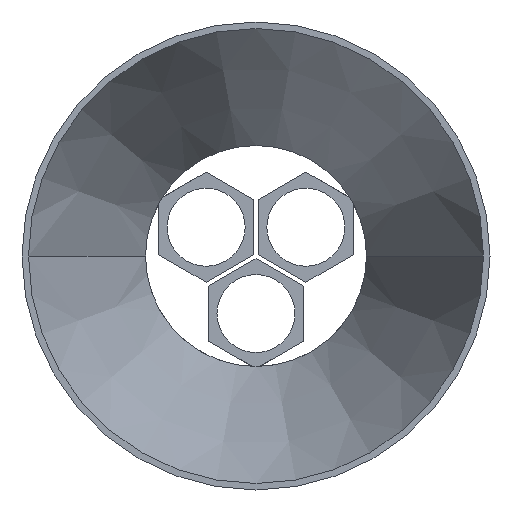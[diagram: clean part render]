
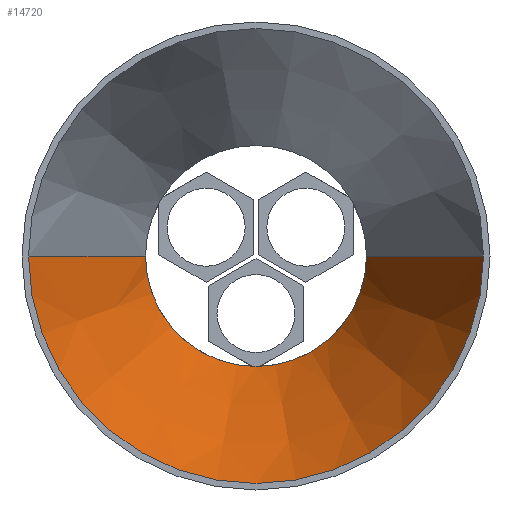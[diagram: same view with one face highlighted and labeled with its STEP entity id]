
A CAD part, front view. The second image highlights one B-rep face of the part: STEP entity #14720.
In plain terms, the highlighted conical face has half-angle 22.467 degrees and reference radius 53 mm.
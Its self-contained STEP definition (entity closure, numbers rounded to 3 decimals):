
#1640=CARTESIAN_POINT('',(4.844,183.695,
0.));
#1650=VERTEX_POINT('',#1640);
#1870=CARTESIAN_POINT('',(55.844,183.695,0.));
#1880=VERTEX_POINT('',#1870);
#1910=CARTESIAN_POINT('',(30.344,183.695,0.));
#1920=DIRECTION('',(0.,1.,0.));
#1930=DIRECTION('',(1.,0.,0.));
#1940=AXIS2_PLACEMENT_3D('',#1910,#1920,#1930);
#1950=CIRCLE('',#1940,25.5);
#1960=EDGE_CURVE('',#1880,#1650,#1950,.T.);
#14410=CARTESIAN_POINT('',(30.344,117.195,0.));
#14420=DIRECTION('',(0.,-1.,0.));
#14430=DIRECTION('',(-1.,0.,0.));
#14440=AXIS2_PLACEMENT_3D('',#14410,#14420,#14430);
#14450=CONICAL_SURFACE('',#14440,53.,0.392);
#14460=CARTESIAN_POINT('',(83.344,117.195,
0.));
#14470=DIRECTION('',(0.382,-0.924,
0.));
#14480=VECTOR('',#14470,1.);
#14490=LINE('',#14460,#14480);
#14500=CARTESIAN_POINT('',(82.844,118.404,
0.));
#14510=VERTEX_POINT('',#14500);
#14520=EDGE_CURVE('',#1880,#14510,#14490,.T.);
#14530=ORIENTED_EDGE('',*,*,#14520,.F.);
#14540=CARTESIAN_POINT('',(30.344,118.404,0.));
#14550=DIRECTION('',(0.,-1.,0.));
#14560=DIRECTION('',(-1.,0.,0.));
#14570=AXIS2_PLACEMENT_3D('',#14540,#14550,#14560);
#14580=CIRCLE('',#14570,52.5);
#14590=CARTESIAN_POINT('',(-22.156,118.404,0.));
#14600=VERTEX_POINT('',#14590);
#14610=EDGE_CURVE('',#14600,#14510,#14580,.T.);
#14620=ORIENTED_EDGE('',*,*,#14610,.T.);
#14630=CARTESIAN_POINT('',(-22.656,117.195,0.));
#14640=DIRECTION('',(-0.382,-0.924,0.));
#14650=VECTOR('',#14640,1.);
#14660=LINE('',#14630,#14650);
#14670=EDGE_CURVE('',#1650,#14600,#14660,.T.);
#14680=ORIENTED_EDGE('',*,*,#14670,.T.);
#14690=ORIENTED_EDGE('',*,*,#1960,.T.);
#14700=EDGE_LOOP('',(#14690,#14680,#14620,#14530));
#14710=FACE_OUTER_BOUND('',#14700,.T.);
#14720=ADVANCED_FACE('',(#14710),#14450,.F.);
